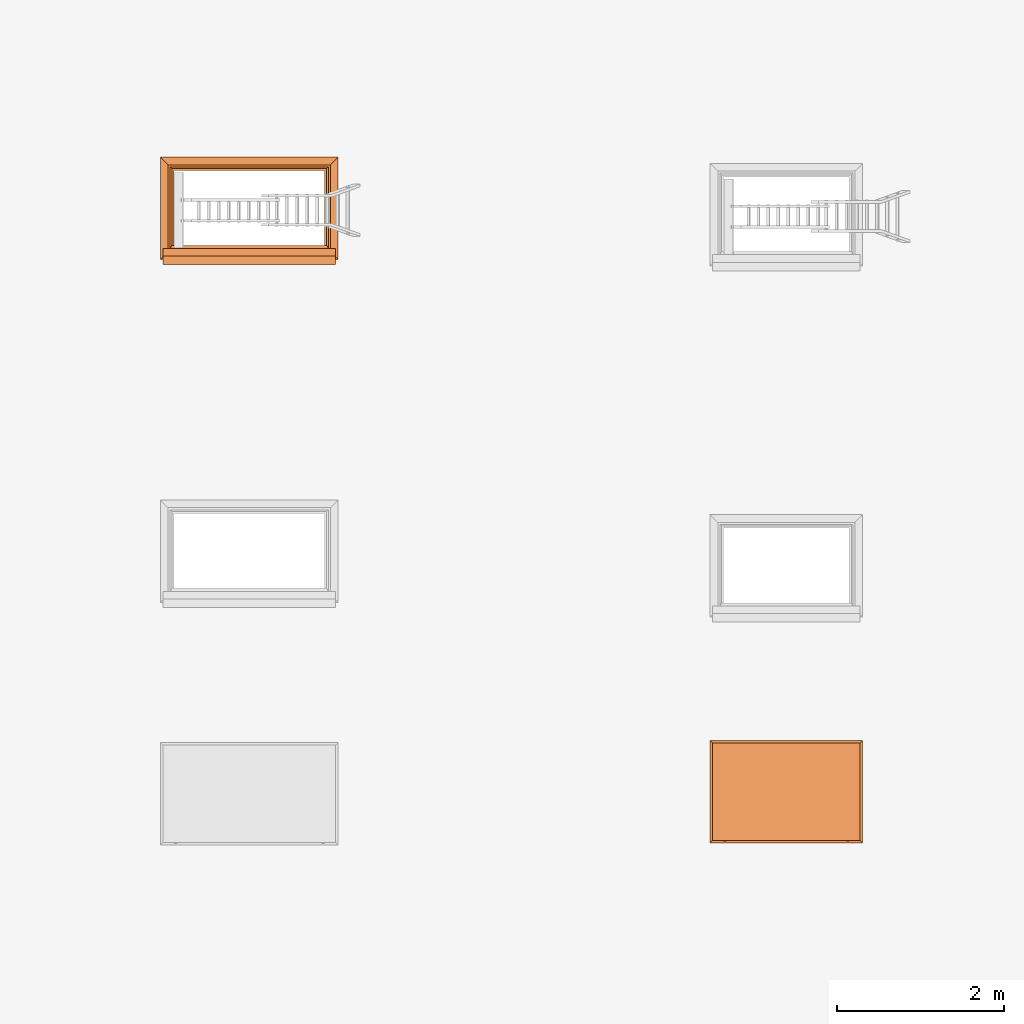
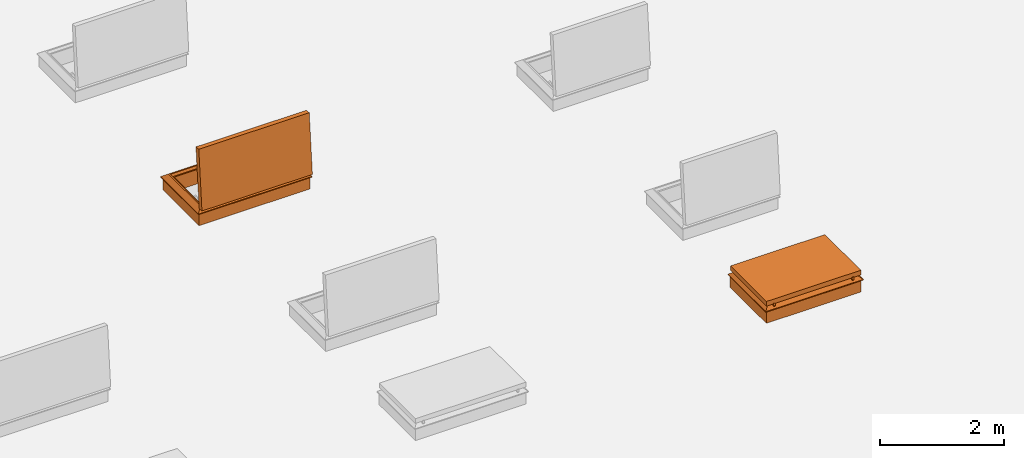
# One storey, part 16 of 28: 2 proxies.
"""IFC2X3 building model written with IfcOpenShell, lengths in millimetres."""

from ifc_helpers import new_model, entity, si_unit, converted_unit, derived_unit, direction, frame, origin, place, context, subcontext, project, spatial, faceted_brep, source, transform, mapped, type_object, type_shapes, element, save


model = new_model("IFC2X3")

# Units and contexts
model_context = context("Model", 3, precision=0.01, world=origin(), true_north=direction((6.12303176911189e-17, 1.0)))
body_context = subcontext(model_context, "Body", "Model", "MODEL_VIEW")
ifc_project = project(units=[si_unit("LENGTHUNIT", "METRE", prefix="MILLI"), si_unit("AREAUNIT", "SQUARE_METRE"), si_unit("VOLUMEUNIT", "CUBIC_METRE"), converted_unit("PLANEANGLEUNIT", "DEGREE", entity("IfcRatioMeasure", 0.0174532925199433), si_unit("PLANEANGLEUNIT", "RADIAN"), dimensions=[0, 0, 0, 0, 0, 0, 0]), si_unit("MASSUNIT", "GRAM", prefix="KILO"), derived_unit("MASSDENSITYUNIT", [(si_unit("MASSUNIT", "GRAM", prefix="KILO"), 1), (si_unit("LENGTHUNIT", "METRE"), -3)]), si_unit("TIMEUNIT", "SECOND"), si_unit("FREQUENCYUNIT", "HERTZ"), si_unit("THERMODYNAMICTEMPERATUREUNIT", "DEGREE_CELSIUS"), derived_unit("THERMALTRANSMITTANCEUNIT", [(si_unit("MASSUNIT", "GRAM", prefix="KILO"), 1), (si_unit("THERMODYNAMICTEMPERATUREUNIT", "KELVIN"), -1), (si_unit("TIMEUNIT", "SECOND"), -3)]), derived_unit("VOLUMETRICFLOWRATEUNIT", [(si_unit("LENGTHUNIT", "METRE"), 3), (si_unit("TIMEUNIT", "SECOND"), -1)]), si_unit("ELECTRICCURRENTUNIT", "AMPERE"), si_unit("ELECTRICVOLTAGEUNIT", "VOLT"), si_unit("POWERUNIT", "WATT"), si_unit("FORCEUNIT", "NEWTON", prefix="KILO"), si_unit("ILLUMINANCEUNIT", "LUX"), si_unit("LUMINOUSFLUXUNIT", "LUMEN"), si_unit("LUMINOUSINTENSITYUNIT", "CANDELA"), derived_unit("USERDEFINED", [(si_unit("MASSUNIT", "GRAM", prefix="KILO"), -1), (si_unit("LENGTHUNIT", "METRE"), -2), (si_unit("TIMEUNIT", "SECOND"), 3), (si_unit("LUMINOUSFLUXUNIT", "LUMEN"), 1)]), derived_unit("LINEARVELOCITYUNIT", [(si_unit("LENGTHUNIT", "METRE"), 1), (si_unit("TIMEUNIT", "SECOND"), -1)]), si_unit("PRESSUREUNIT", "PASCAL"), derived_unit("USERDEFINED", [(si_unit("LENGTHUNIT", "METRE"), -2), (si_unit("MASSUNIT", "GRAM", prefix="KILO"), 1), (si_unit("TIMEUNIT", "SECOND"), -2)])], contexts=[model_context])

# Site, building, storey
site_placement = place(None, origin())
site = spatial("IfcSite", under=ifc_project, at=site_placement, Name="Default", CompositionType="ELEMENT")
building_placement = place(site_placement, origin())
building = spatial("IfcBuilding", under=site, at=building_placement, CompositionType="ELEMENT")
storey_placement = place(building_placement, frame((0.0, 0.0, 4000.0)))
storey = spatial("IfcBuildingStorey", under=building, at=storey_placement, Name="Level 2", CompositionType="ELEMENT", Elevation=4000.0)

# Proxies
building_element_proxy_type_1 = type_object("IfcBuildingElementProxyType", Name="1800 x 900 2part Stair", PredefinedType="NOTDEFINED")
shared_shape_1 = source(origin(), body_context, "Body", "Brep", [
    faceted_brep([(-1631.26976233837, -341.462693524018, 337.452052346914), (-1631.26976233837, -341.488441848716, 335.779315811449), (-1631.26976233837, -341.532578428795, 334.060847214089), (-1631.26976233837, -341.190557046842, 332.37617996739), (-1631.26976233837, -340.479768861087, 330.81097630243), (-1631.26976233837, -339.436356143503, 329.444823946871), (-1631.26976233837, -338.113374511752, 328.347189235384), (-1631.26976233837, -336.578095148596, 327.573884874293), (-1631.26976233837, -302.711611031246, 315.073034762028), (-1631.26976233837, -349.563739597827, 277.591331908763), (-1631.26976233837, -356.620505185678, 286.412288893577), (-1631.26976233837, -357.994045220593, 289.380489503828), (-1631.26976233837, -358.771185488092, 292.557418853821), (-1631.26976233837, -358.922919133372, 295.824497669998), (-1631.26976233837, -354.679485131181, 338.870295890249), (-1631.26976233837, -353.959431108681, 340.38033982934), (-1631.26976233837, -352.892612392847, 341.668985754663), (-1631.26976233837, -351.543548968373, 342.658297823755), (-1631.26976233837, -349.993830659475, 343.288443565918), (-1631.26976233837, -348.337182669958, 343.521312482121), (-1631.26976233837, -346.673797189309, 343.342820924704), (-1631.26976233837, -345.104273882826, 342.763763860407), (-1631.26976233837, -343.723535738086, 341.819162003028), (-1631.26976233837, -342.615088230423, 340.566143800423), (-1631.26976233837, -341.845969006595, 339.080490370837), (-1594.51295834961, -302.711611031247, 315.073034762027), (-1594.51295834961, -349.563739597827, 277.591331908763), (-1594.51295834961, -356.620505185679, 286.412288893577), (-1594.51295834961, -357.994045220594, 289.380489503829), (-1594.51295834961, -358.771185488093, 292.557418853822), (-1594.51295834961, -358.922919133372, 295.824497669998), (-1594.51295834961, -354.679485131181, 338.870295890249), (-1594.51295834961, -353.959431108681, 340.380339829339), (-1594.51295834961, -352.892612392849, 341.668985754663), (-1594.51295834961, -351.543548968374, 342.658297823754), (-1594.51295834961, -349.993830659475, 343.288443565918), (-1594.51295834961, -348.337182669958, 343.52131248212), (-1594.51295834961, -346.673797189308, 343.342820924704), (-1594.51295834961, -343.723535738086, 341.819162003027), (-1594.51295834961, -345.104273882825, 342.763763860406), (-1594.51295834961, -342.615088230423, 340.566143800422), (-1594.51295834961, -341.845969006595, 339.080490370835), (-1594.51295834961, -341.462693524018, 337.452052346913), (-1594.51295834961, -341.488441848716, 335.779315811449), (-1594.51295834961, -341.532578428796, 334.060847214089), (-1594.51295834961, -341.190557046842, 332.376179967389), (-1594.51295834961, -340.479768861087, 330.810976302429), (-1594.51295834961, -338.113374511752, 328.347189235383), (-1594.51295834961, -336.578095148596, 327.573884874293), (-1594.51295834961, -339.436356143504, 329.44482394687)], [[[0, 1, 2, 3, 4, 5, 6, 7, 8, 9, 10, 11, 12, 13, 14, 15, 16, 17, 18, 19, 20, 21, 22, 23, 24]], [[9, 8, 25, 26]], [[10, 9, 26, 27]], [[27, 28, 11, 10]], [[28, 29, 12, 11]], [[29, 30, 13, 12]], [[14, 13, 30, 31]], [[15, 14, 31, 32]], [[33, 16, 15, 32]], [[18, 17, 34, 35]], [[17, 16, 33, 34]], [[36, 19, 18, 35]], [[20, 19, 36, 37]], [[38, 22, 21, 39]], [[40, 23, 22, 38]], [[0, 24, 41, 42]], [[40, 41, 24, 23]], [[1, 0, 42, 43]], [[39, 21, 20, 37]], [[44, 45, 3, 2]], [[43, 44, 2, 1]], [[46, 4, 3, 45]], [[47, 48, 7, 6]], [[49, 47, 6, 5]], [[49, 5, 4, 46]], [[8, 7, 48, 25]], [[26, 25, 48, 47, 49, 46, 45, 44, 43, 42, 41, 40, 38, 39, 37, 36, 35, 34, 33, 32, 31, 30, 29, 28, 27]]]),
    faceted_brep([(133.458717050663, -349.563739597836, 277.591331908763), (133.458717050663, -302.711611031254, 315.073034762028), (168.730237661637, -302.711611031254, 315.073034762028), (168.730237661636, -349.563739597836, 277.591331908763), (133.458717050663, -356.620505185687, 286.412288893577), (168.730237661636, -356.620505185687, 286.412288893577), (168.730237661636, -357.994045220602, 289.380489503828), (133.458717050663, -357.994045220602, 289.380489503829), (168.730237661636, -358.771185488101, 292.557418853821), (133.458717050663, -358.771185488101, 292.557418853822), (168.730237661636, -358.922919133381, 295.824497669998), (133.458717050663, -358.922919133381, 295.824497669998), (133.458717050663, -354.679485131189, 338.870295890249), (168.730237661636, -354.679485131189, 338.870295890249), (168.730237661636, -353.959431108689, 340.38033982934), (133.458717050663, -353.959431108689, 340.38033982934), (168.730237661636, -352.892612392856, 341.668985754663), (133.458717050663, -352.892612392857, 341.668985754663), (133.458717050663, -349.993830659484, 343.288443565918), (133.458717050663, -351.543548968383, 342.658297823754), (168.730237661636, -351.543548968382, 342.658297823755), (168.730237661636, -349.993830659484, 343.288443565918), (133.458717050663, -348.337182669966, 343.521312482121), (168.730237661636, -348.337182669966, 343.521312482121), (133.458717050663, -346.673797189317, 343.342820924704), (168.730237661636, -346.673797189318, 343.342820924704), (168.730237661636, -345.104273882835, 342.763763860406), (133.458717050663, -345.104273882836, 342.763763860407), (168.730237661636, -343.723535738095, 341.819162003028), (133.458717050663, -343.723535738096, 341.819162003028), (133.458717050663, -341.845969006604, 339.080490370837), (133.458717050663, -342.615088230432, 340.566143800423), (168.730237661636, -342.615088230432, 340.566143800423), (168.730237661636, -341.845969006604, 339.080490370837), (133.458717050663, -341.462693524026, 337.452052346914), (168.730237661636, -341.462693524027, 337.452052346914), (133.458717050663, -341.488441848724, 335.779315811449), (168.730237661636, -341.488441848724, 335.779315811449), (133.458717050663, -341.532578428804, 334.060847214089), (168.730237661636, -341.532578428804, 334.060847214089), (133.458717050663, -341.19055704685, 332.37617996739), (168.730237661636, -341.190557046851, 332.37617996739), (168.730237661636, -340.479768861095, 330.81097630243), (133.458717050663, -340.479768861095, 330.81097630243), (133.458717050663, -338.113374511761, 328.347189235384), (133.458717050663, -339.436356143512, 329.44482394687), (168.730237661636, -339.436356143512, 329.44482394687), (168.730237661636, -338.113374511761, 328.347189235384), (133.458717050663, -336.578095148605, 327.573884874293), (168.730237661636, -336.578095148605, 327.573884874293)], [[[0, 1, 2, 3]], [[4, 0, 3, 5]], [[5, 6, 7, 4]], [[6, 8, 9, 7]], [[8, 10, 11, 9]], [[12, 11, 10, 13]], [[14, 15, 12, 13]], [[16, 17, 15, 14]], [[18, 19, 20, 21]], [[16, 20, 19, 17]], [[22, 18, 21, 23]], [[24, 22, 23, 25]], [[26, 27, 24, 25]], [[28, 29, 27, 26]], [[30, 31, 32, 33]], [[28, 32, 31, 29]], [[34, 30, 33, 35]], [[36, 34, 35, 37]], [[38, 36, 37, 39]], [[40, 38, 39, 41]], [[42, 43, 40, 41]], [[44, 45, 46, 47]], [[48, 44, 47, 49]], [[46, 45, 43, 42]], [[1, 48, 49, 2]], [[5, 3, 2, 49, 47, 46, 42, 41, 39, 37, 35, 33, 32, 28, 26, 25, 23, 21, 20, 16, 14, 13, 10, 8, 6]], [[12, 15, 17, 19, 18, 22, 24, 27, 29, 31, 30, 34, 36, 38, 40, 43, 45, 44, 48, 1, 0, 4, 7, 9, 11]]]),
    faceted_brep([(238.730237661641, 753.447095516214, 328.0), (330.730237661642, 845.447095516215, 254.4), (-1793.26976233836, 845.447095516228, 254.4), (-1701.26976233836, 753.447095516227, 328.0), (194.730237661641, 709.447095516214, 282.0), (214.256079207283, 728.972937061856, 328.0), (-1676.795603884, 728.972937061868, 328.0), (-1657.26976233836, 709.447095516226, 282.0), (168.73023766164, 683.447095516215, 0.0), (168.73023766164, 683.447095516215, 282.0), (-1631.26976233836, 683.447095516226, 282.0), (-1631.26976233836, 683.447095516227, 0.0), (304.73023766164, 819.447095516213, 240.0), (304.730237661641, 819.447095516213, 0.0), (-1767.26976233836, 819.447095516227, 0.0), (-1767.26976233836, 819.447095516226, 240.0), (330.730237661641, 845.447095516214, 240.0), (-1793.26976233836, 845.447095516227, 240.0), (-1793.26976233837, -378.552904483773, 254.4), (-1701.26976233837, -286.552904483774, 328.0), (-1676.79560388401, -262.078746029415, 328.0), (-1657.26976233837, -242.552904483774, 282.0), (-1631.26976233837, -216.552904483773, 282.0), (-1631.26976233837, -216.552904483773, 0.0), (-1767.26976233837, -352.552904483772, 0.0), (-1767.26976233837, -352.552904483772, 240.0), (-1793.26976233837, -378.552904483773, 240.0), (330.730237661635, -378.552904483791, 254.4), (238.730237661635, -286.552904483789, 328.0), (214.256079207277, -262.078746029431, 328.0), (194.730237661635, -242.552904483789, 282.0), (168.730237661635, -216.552904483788, 282.0), (168.730237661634, -216.552904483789, 0.0), (304.730237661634, -352.552904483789, 0.0), (304.730237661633, -352.552904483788, 240.0), (330.730237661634, -378.552904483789, 240.0)], [[[0, 1, 2, 3]], [[4, 5, 6, 7]], [[8, 9, 10, 11]], [[12, 13, 14, 15]], [[1, 16, 17, 2]], [[3, 2, 18, 19]], [[7, 6, 20, 21]], [[11, 10, 22, 23]], [[15, 14, 24, 25]], [[2, 17, 26, 18]], [[19, 18, 27, 28]], [[21, 20, 29, 30]], [[23, 22, 31, 32]], [[25, 24, 33, 34]], [[18, 26, 35, 27]], [[28, 27, 1, 0]], [[3, 19, 28, 0], [5, 29, 20, 6]], [[30, 29, 5, 4]], [[7, 21, 30, 4], [9, 31, 22, 10]], [[32, 31, 9, 8]], [[11, 23, 32, 8], [13, 33, 24, 14]], [[34, 33, 13, 12]], [[15, 25, 34, 12], [16, 35, 26, 17]], [[27, 35, 16, 1]]], outer=[[True], [True], [True], [True], [True], [True], [True], [True], [True], [True], [True], [True], [True], [True], [True], [True], [True, False], [True], [True, False], [True], [False, True], [True], [False, True], [True]]),
    faceted_brep([(-1633.27259076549, -350.029551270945, 1370.57460720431), (-1633.27259076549, -428.818342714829, 470.014600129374), (171.727409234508, -428.81834271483, 470.014600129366), (171.727409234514, -350.029551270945, 1370.5746072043), (-1633.27259076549, -211.160010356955, 1358.42509666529), (171.727409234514, -211.160010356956, 1358.42509666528), (171.727409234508, -289.94880180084, 457.865089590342), (-1633.27259076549, -289.948801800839, 457.86508959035)], [[[0, 1, 2, 3]], [[4, 5, 6, 7]], [[1, 0, 4, 7]], [[2, 1, 7, 6]], [[3, 2, 6, 5]], [[0, 3, 5, 4]]]),
    faceted_brep([(171.727409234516, -211.16001035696, 1358.42509666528), (171.727409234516, -350.02955127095, 1370.57460720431), (-1633.27259076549, -350.029551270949, 1370.57460720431), (-1633.27259076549, -211.16001035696, 1358.42509666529), (214.727409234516, -253.635747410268, 1405.30549514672), (197.127409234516, -208.94625449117, 1383.72844199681), (-1658.67259076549, -208.946254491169, 1383.72844199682), (-1676.27259076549, -253.635747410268, 1405.30549514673), (300.727409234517, -338.786460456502, 1499.08372325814), (300.727409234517, -246.14035353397, 1490.97823918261), (-1762.27259076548, -246.140353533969, 1490.97823918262), (-1762.27259076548, -338.786460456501, 1499.08372325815), (-1633.27259076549, -428.818342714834, 470.014600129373), (-1633.27259076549, -289.948801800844, 457.865089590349), (-1658.67259076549, -292.162557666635, 432.561744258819), (-1676.27259076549, -339.919932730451, 419.072744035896), (-1762.27259076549, -347.41532660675, 333.400000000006), (-1762.27259076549, -440.061433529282, 341.505484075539), (171.72740923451, -428.818342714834, 470.014600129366), (171.72740923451, -289.948801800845, 457.865089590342), (197.12740923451, -292.162557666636, 432.561744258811), (214.72740923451, -339.919932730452, 419.072744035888), (300.727409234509, -347.415326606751, 333.399999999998), (300.727409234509, -440.061433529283, 341.50548407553)], [[[0, 1, 2, 3]], [[4, 5, 6, 7]], [[8, 9, 10, 11]], [[3, 2, 12, 13]], [[7, 6, 14, 15]], [[11, 10, 16, 17]], [[13, 12, 18, 19]], [[15, 14, 20, 21]], [[17, 16, 22, 23]], [[19, 18, 1, 0]], [[3, 13, 19, 0], [5, 20, 14, 6]], [[21, 20, 5, 4]], [[7, 15, 21, 4], [9, 22, 16, 10]], [[23, 22, 9, 8]], [[1, 18, 12, 2], [11, 17, 23, 8]]], outer=[[True], [True], [True], [True], [True], [True], [True], [True], [True], [True], [False, True], [True], [False, True], [True], [False, True]]),
])
type_shapes(building_element_proxy_type_1, [shared_shape_1])
proxy_1_placement = place(storey_placement, frame((-11350.7704168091, 5497.08989573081, 400.0)))
element("IfcBuildingElementProxy", 1, at=proxy_1_placement, inside=storey, type_object=building_element_proxy_type_1, Name="4_Topaccess_dakluik_1800x900_Staka:1800 x 900 2part Stair", ObjectType="1800 x 900 2part Stair", context=body_context, shape_type="MappedRepresentation", body=[
    mapped(shared_shape_1, transform((0.0, 0.0, 0.0), scale=1.0)),
])
building_element_proxy_type_2 = type_object("IfcBuildingElementProxyType", Name="1500 x 900", PredefinedType="NOTDEFINED")
shared_shape_2 = source(origin(), body_context, "Body", "Brep", [
    faceted_brep([(-1631.26976233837, -350.124781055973, 344.195196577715), (-1631.26976233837, -348.800451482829, 344.908169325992), (-1631.26976233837, -347.339899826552, 345.26729022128), (-1631.26976233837, -345.835948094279, 345.249736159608), (-1631.26976233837, -344.384176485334, 344.856622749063), (-1631.26976233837, -343.076849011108, 344.112933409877), (-1631.26976233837, -341.997049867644, 343.065931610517), (-1631.26976233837, -341.213403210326, 341.782157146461), (-1631.26976233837, -340.775711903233, 340.343197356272), (-1631.26976233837, -340.711792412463, 338.840502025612), (-1631.26976233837, -340.696254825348, 336.62771705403), (-1631.26976233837, -340.198130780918, 334.471671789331), (-1631.26976233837, -339.24143902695, 332.476327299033), (-1631.26976233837, -337.872309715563, 330.737895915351), (-1631.26976233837, -336.156760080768, 329.340202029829), (-1631.26976233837, -334.177511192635, 328.350640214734), (-1631.26976233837, -301.289293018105, 316.210889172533), (-1631.26976233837, -348.141421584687, 278.729186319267), (-1631.26976233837, -358.074072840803, 291.145000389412), (-1631.26976233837, -359.148733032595, 293.636450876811), (-1631.26976233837, -359.233835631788, 296.34845707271), (-1631.26976233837, -352.042121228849, 341.908549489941), (-1631.26976233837, -351.228723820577, 343.173683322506), (-1599.74602094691, -334.177511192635, 328.350640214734), (-1599.74602094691, -301.289293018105, 316.210889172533), (-1599.74602094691, -348.141421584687, 278.729186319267), (-1599.74602094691, -358.074072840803, 291.145000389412), (-1599.74602094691, -359.148733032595, 293.636450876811), (-1599.74602094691, -359.23383563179, 296.34845707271), (-1599.74602094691, -352.042121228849, 341.908549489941), (-1599.74602094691, -351.228723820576, 343.173683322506), (-1599.74602094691, -350.124781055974, 344.195196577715), (-1599.74602094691, -348.80045148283, 344.908169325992), (-1599.74602094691, -347.339899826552, 345.26729022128), (-1599.74602094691, -345.835948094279, 345.249736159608), (-1599.74602094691, -344.384176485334, 344.856622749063), (-1599.74602094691, -343.076849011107, 344.112933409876), (-1599.74602094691, -341.997049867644, 343.065931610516), (-1599.74602094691, -341.213403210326, 341.78215714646), (-1599.74602094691, -340.775711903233, 340.343197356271), (-1599.74602094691, -340.711792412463, 338.840502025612), (-1599.74602094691, -340.696254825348, 336.62771705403), (-1599.74602094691, -340.198130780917, 334.471671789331), (-1599.74602094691, -339.24143902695, 332.476327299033), (-1599.74602094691, -336.156760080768, 329.340202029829), (-1599.74602094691, -337.872309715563, 330.737895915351)], [[[0, 1, 2, 3, 4, 5, 6, 7, 8, 9, 10, 11, 12, 13, 14, 15, 16, 17, 18, 19, 20, 21, 22]], [[16, 15, 23, 24]], [[17, 16, 24, 25]], [[18, 17, 25, 26]], [[18, 26, 27, 19]], [[28, 20, 19, 27]], [[21, 20, 28, 29]], [[30, 22, 21, 29]], [[31, 0, 22, 30]], [[2, 1, 32, 33]], [[1, 0, 31, 32]], [[33, 34, 3, 2]], [[34, 35, 4, 3]], [[36, 5, 4, 35]], [[37, 6, 5, 36]], [[38, 39, 8, 7]], [[38, 7, 6, 37]], [[9, 8, 39, 40]], [[41, 42, 11, 10]], [[40, 41, 10, 9]], [[43, 12, 11, 42]], [[44, 23, 15, 14]], [[45, 44, 14, 13]], [[45, 13, 12, 43]], [[25, 24, 23, 44, 45, 43, 42, 41, 40, 39, 38, 37, 36, 35, 34, 33, 32, 31, 30, 29, 28, 27, 26]]]),
    faceted_brep([(-164.993105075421, -301.289293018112, 316.210889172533), (-164.993105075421, -334.177511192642, 328.350640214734), (-131.269762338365, -334.177511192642, 328.350640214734), (-131.269762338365, -301.289293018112, 316.210889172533), (-164.993105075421, -348.141421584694, 278.729186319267), (-131.269762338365, -348.141421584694, 278.729186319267), (-164.993105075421, -358.07407284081, 291.145000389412), (-131.269762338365, -358.07407284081, 291.145000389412), (-164.993105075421, -359.148733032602, 293.636450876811), (-131.269762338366, -359.148733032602, 293.636450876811), (-131.269762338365, -359.233835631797, 296.34845707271), (-164.993105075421, -359.233835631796, 296.34845707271), (-164.993105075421, -352.042121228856, 341.908549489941), (-131.269762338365, -352.042121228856, 341.908549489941), (-131.269762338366, -351.228723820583, 343.173683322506), (-164.993105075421, -351.228723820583, 343.173683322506), (-131.269762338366, -350.12478105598, 344.195196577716), (-164.993105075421, -350.12478105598, 344.195196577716), (-164.993105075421, -347.339899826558, 345.26729022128), (-164.993105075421, -348.800451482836, 344.908169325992), (-131.269762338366, -348.800451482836, 344.908169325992), (-131.269762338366, -347.339899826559, 345.26729022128), (-164.993105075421, -345.835948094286, 345.249736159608), (-131.269762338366, -345.835948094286, 345.249736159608), (-131.269762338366, -344.384176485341, 344.856622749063), (-164.993105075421, -344.384176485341, 344.856622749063), (-131.269762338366, -343.076849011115, 344.112933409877), (-164.993105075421, -343.076849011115, 344.112933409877), (-131.269762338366, -341.997049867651, 343.065931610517), (-164.993105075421, -341.997049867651, 343.065931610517), (-164.993105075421, -340.77571190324, 340.343197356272), (-164.993105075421, -341.213403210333, 341.782157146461), (-131.269762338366, -341.213403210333, 341.782157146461), (-131.269762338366, -340.77571190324, 340.343197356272), (-164.993105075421, -340.71179241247, 338.840502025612), (-131.269762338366, -340.71179241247, 338.840502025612), (-164.993105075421, -340.696254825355, 336.62771705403), (-131.269762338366, -340.696254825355, 336.62771705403), (-164.993105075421, -340.198130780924, 334.471671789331), (-131.269762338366, -340.198130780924, 334.471671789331), (-131.269762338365, -339.241439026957, 332.476327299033), (-164.993105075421, -339.241439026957, 332.476327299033), (-164.993105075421, -336.156760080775, 329.340202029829), (-164.993105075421, -337.87230971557, 330.737895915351), (-131.269762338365, -337.87230971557, 330.737895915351), (-131.269762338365, -336.156760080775, 329.340202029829)], [[[0, 1, 2, 3]], [[4, 0, 3, 5]], [[6, 4, 5, 7]], [[8, 6, 7, 9]], [[8, 9, 10, 11]], [[12, 11, 10, 13]], [[14, 15, 12, 13]], [[16, 17, 15, 14]], [[18, 19, 20, 21]], [[16, 20, 19, 17]], [[22, 18, 21, 23]], [[23, 24, 25, 22]], [[26, 27, 25, 24]], [[28, 29, 27, 26]], [[30, 31, 32, 33]], [[28, 32, 31, 29]], [[34, 30, 33, 35]], [[36, 34, 35, 37]], [[38, 36, 37, 39]], [[40, 41, 38, 39]], [[42, 43, 44, 45]], [[1, 42, 45, 2]], [[44, 43, 41, 40]], [[10, 9, 7, 5, 3, 2, 45, 44, 40, 39, 37, 35, 33, 32, 28, 26, 24, 23, 21, 20, 16, 14, 13]], [[34, 36, 38, 41, 43, 42, 1, 0, 4, 6, 8, 11, 12, 15, 17, 19, 18, 22, 25, 27, 29, 31, 30]]]),
    faceted_brep([(-61.2697623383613, 753.447095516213, 328.0), (30.7302376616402, 845.447095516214, 254.4), (-1793.26976233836, 845.447095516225, 254.4), (-1701.26976233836, 753.447095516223, 328.0), (-105.269762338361, 709.447095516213, 282.0), (-85.7439207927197, 728.972937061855, 328.0), (-1676.795603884, 728.972937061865, 328.0), (-1657.26976233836, 709.447095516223, 282.0), (-131.269762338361, 683.447095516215, 0.0), (-131.269762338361, 683.447095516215, 282.0), (-1631.26976233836, 683.447095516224, 282.0), (-1631.26976233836, 683.447095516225, 0.0), (4.73023766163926, 819.447095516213, 240.0), (4.73023766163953, 819.447095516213, 0.0), (-1767.26976233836, 819.447095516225, 0.0), (-1767.26976233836, 819.447095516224, 240.0), (30.7302376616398, 845.447095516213, 240.0), (-1793.26976233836, 845.447095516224, 240.0), (-1793.26976233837, -378.552904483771, 254.4), (-1701.26976233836, -286.55290448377, 328.0), (-1676.79560388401, -262.078746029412, 328.0), (-1657.26976233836, -242.552904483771, 282.0), (-1631.26976233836, -216.552904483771, 282.0), (-1631.26976233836, -216.552904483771, 0.0), (-1767.26976233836, -352.55290448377, 0.0), (-1767.26976233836, -352.55290448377, 240.0), (-1793.26976233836, -378.55290448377, 240.0), (30.7302376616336, -378.552904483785, 254.399999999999), (-61.2697623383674, -286.552904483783, 328.0), (-85.7439207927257, -262.078746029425, 328.0), (-105.269762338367, -242.552904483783, 282.0), (-131.269762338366, -216.552904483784, 282.0), (-131.269762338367, -216.552904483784, 0.0), (4.73023766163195, -352.552904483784, 0.0), (4.73023766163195, -352.552904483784, 240.0), (30.7302376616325, -378.552904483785, 240.0)], [[[0, 1, 2, 3]], [[4, 5, 6, 7]], [[8, 9, 10, 11]], [[12, 13, 14, 15]], [[1, 16, 17, 2]], [[3, 2, 18, 19]], [[7, 6, 20, 21]], [[11, 10, 22, 23]], [[15, 14, 24, 25]], [[2, 17, 26, 18]], [[19, 18, 27, 28]], [[21, 20, 29, 30]], [[23, 22, 31, 32]], [[25, 24, 33, 34]], [[18, 26, 35, 27]], [[28, 27, 1, 0]], [[3, 19, 28, 0], [5, 29, 20, 6]], [[30, 29, 5, 4]], [[7, 21, 30, 4], [9, 31, 22, 10]], [[32, 31, 9, 8]], [[11, 23, 32, 8], [13, 33, 24, 14]], [[34, 33, 13, 12]], [[15, 25, 34, 12], [16, 35, 26, 17]], [[27, 35, 16, 1]]], outer=[[True], [True], [True], [True], [True], [True], [True], [True], [True], [True], [True], [True], [True], [True], [True], [True], [True, False], [True], [True, False], [True], [False, True], [True], [False, True], [True]]),
    faceted_brep([(-1633.27259076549, 685.584673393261, 426.399999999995), (-1633.27259076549, -218.41532660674, 426.399999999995), (-128.272590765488, -218.415326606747, 426.399999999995), (-128.272590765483, 685.584673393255, 426.399999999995), (-1633.27259076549, 685.584673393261, 287.0), (-128.272590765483, 685.584673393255, 287.0), (-128.272590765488, -218.415326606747, 287.0), (-1633.27259076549, -218.41532660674, 287.0)], [[[0, 1, 2, 3]], [[4, 5, 6, 7]], [[1, 0, 4, 7]], [[2, 1, 7, 6]], [[3, 2, 6, 5]], [[0, 3, 5, 4]]]),
    faceted_brep([(-128.272590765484, 685.584673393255, 287.0), (-128.272590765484, 685.584673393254, 426.399999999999), (-1633.27259076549, 685.584673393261, 426.399999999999), (-1633.27259076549, 685.584673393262, 287.0), (-85.2725907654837, 728.584673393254, 333.399999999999), (-102.872590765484, 710.984673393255, 287.0), (-1658.67259076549, 710.984673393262, 287.0), (-1676.27259076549, 728.584673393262, 333.399999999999), (0.727409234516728, 814.584673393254, 426.399999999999), (0.727409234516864, 814.584673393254, 333.399999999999), (-1762.27259076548, 814.584673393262, 333.399999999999), (-1762.27259076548, 814.584673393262, 426.399999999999), (-1633.27259076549, -218.41532660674, 426.399999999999), (-1633.27259076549, -218.415326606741, 287.0), (-1658.67259076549, -243.815326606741, 287.0), (-1676.27259076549, -261.41532660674, 333.399999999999), (-1762.27259076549, -347.41532660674, 333.399999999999), (-1762.27259076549, -347.41532660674, 426.399999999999), (-128.27259076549, -218.415326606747, 426.399999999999), (-128.27259076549, -218.415326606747, 287.0), (-102.87259076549, -243.815326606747, 287.0), (-85.2725907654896, -261.415326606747, 333.399999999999), (0.727409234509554, -347.415326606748, 333.399999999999), (0.727409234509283, -347.415326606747, 426.399999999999)], [[[0, 1, 2, 3]], [[4, 5, 6, 7]], [[8, 9, 10, 11]], [[3, 2, 12, 13]], [[7, 6, 14, 15]], [[11, 10, 16, 17]], [[13, 12, 18, 19]], [[15, 14, 20, 21]], [[17, 16, 22, 23]], [[19, 18, 1, 0]], [[3, 13, 19, 0], [5, 20, 14, 6]], [[21, 20, 5, 4]], [[7, 15, 21, 4], [9, 22, 16, 10]], [[23, 22, 9, 8]], [[1, 18, 12, 2], [11, 17, 23, 8]]], outer=[[True], [True], [True], [True], [True], [True], [True], [True], [True], [True], [False, True], [True], [False, True], [True], [False, True]]),
])
type_shapes(building_element_proxy_type_2, [shared_shape_2])
proxy_2_placement = place(storey_placement, frame((-4778.38927370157, -1477.80965877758, 400.0)))
element("IfcBuildingElementProxy", 2, at=proxy_2_placement, inside=storey, type_object=building_element_proxy_type_2, Name="4_Topaccess_dakluik_1500x900_Staka:1500 x 900", ObjectType="1500 x 900", context=body_context, shape_type="MappedRepresentation", body=[
    mapped(shared_shape_2, transform((0.0, 0.0, 0.0), scale=1.0)),
])

save(model, "model.ifc")
